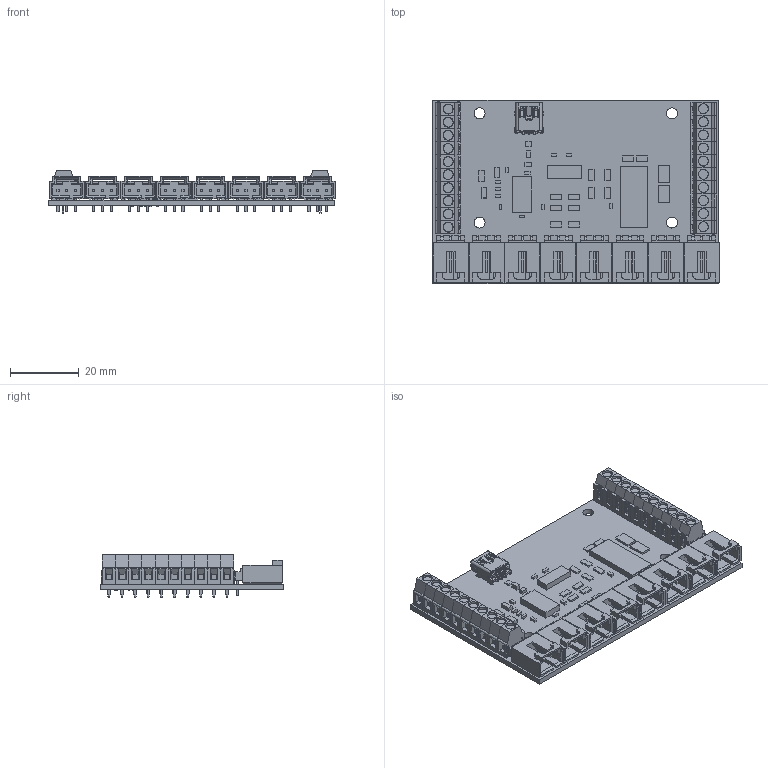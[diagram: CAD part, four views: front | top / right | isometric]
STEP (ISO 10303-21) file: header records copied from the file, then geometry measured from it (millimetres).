
FILE_DESCRIPTION(('Open CASCADE Model'),'2;1');
FILE_NAME('Open CASCADE Shape Model','2010-10-27T12:11:29',('Author'),( 'Open CASCADE'),'Open CASCADE STEP processor 6.2','Open CASCADE 6.2' ,'Unknown');
FILE_SCHEMA(('AUTOMOTIVE_DESIGN { 1 0 10303 214 1 1 1 1 }'));
Length unit declared in the file: millimetre
Products named in the file (82): PCB; Board; J11; 548190519; Open CASCADE STEP translator 6.2 123.2.1.1; Open CASCADE STEP translator 6.2 123.2.1.2; R13; 489472832; Extruded; C12; 489473600; C11; 489473344; L1; 489473472; C8; 489472960; C17; J10; 705530002; Open CASCADE STEP translator 6.2 123.9.1.1; Open CASCADE STEP translator 6.2 123.9.1.2; J9; J8; J7; J6; J5; J4; J3; J2; d10_asm; 20020327-D-LEM; 20020327-D-REM; J1; U1; 489472064; R17; 489472704; R16; C1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
Assembly tree (119 placements, depth 4):
  PCB
    Board
    J11
      548190519
        Open CASCADE STEP translator 6.2 123.2.1.1
        Open CASCADE STEP translator 6.2 123.2.1.2
    R13
      489472832
        Extruded
    C12
      489473600
        Extruded
    C11
      489473344
        Extruded
    L1
      489473472
        Extruded
    C8
      489472960
        Extruded
    C17
      489472960
        Extruded
    J10
      705530002
        Open CASCADE STEP translator 6.2 123.9.1.1
        Open CASCADE STEP translator 6.2 123.9.1.2
    J9
      705530002
        Open CASCADE STEP translator 6.2 123.9.1.1
        Open CASCADE STEP translator 6.2 123.9.1.2
    J8
      705530002
        Open CASCADE STEP translator 6.2 123.9.1.1
        Open CASCADE STEP translator 6.2 123.9.1.2
    J7
      705530002
        Open CASCADE STEP translator 6.2 123.9.1.1
        Open CASCADE STEP translator 6.2 123.9.1.2
    J6
      705530002
        Open CASCADE STEP translator 6.2 123.9.1.1
        Open CASCADE STEP translator 6.2 123.9.1.2
    J5
      705530002
        Open CASCADE STEP translator 6.2 123.9.1.1
        Open CASCADE STEP translator 6.2 123.9.1.2
    J4
      705530002
        Open CASCADE STEP translator 6.2 123.9.1.1
        Open CASCADE STEP translator 6.2 123.9.1.2
    J3
      705530002
        Open CASCADE STEP translator 6.2 123.9.1.1
        Open CASCADE STEP translator 6.2 123.9.1.2
    J2
      d10_asm
        20020327-D-LEM
        20020327-D-REM  x10
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Bounding box: 83.19 x 53.34 x 12.31 mm (x, y, z)
Volume: 14666.5 mm3; surface area: 24359.6 mm2
Topology: 88 solids, 88 shells, 3871 faces, 10328 edges, 6744 vertices
Faces by surface type: plane 3280, cylinder 525, cone 48, bspline 18
Full cylindrical faces by diameter (mm): 0.8 x5, 0.965 x24, 1.321 x20, 3.175 x4
Entity records: 60140 total; most frequent: CARTESIAN_POINT 14027, DIRECTION 8228, LINE 5557, VECTOR 5557, ORIENTED_EDGE 4444, PCURVE 4444, DEFINITIONAL_REPRESENTATION 4444, EDGE_CURVE 2222
